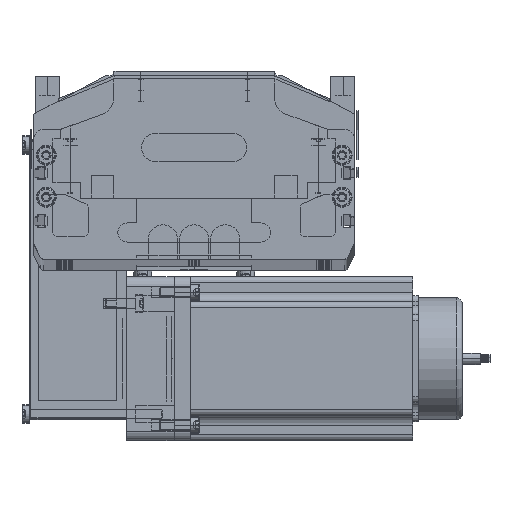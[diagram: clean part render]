
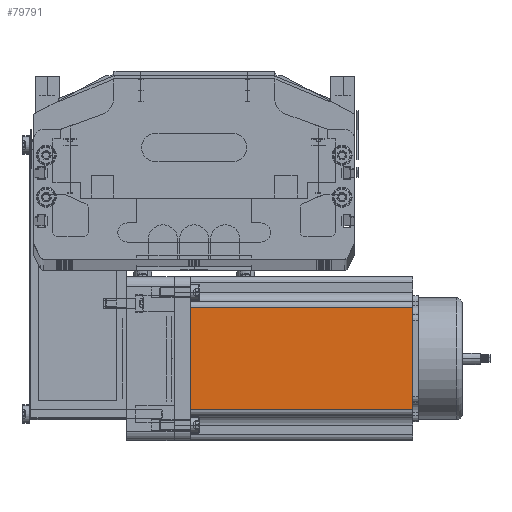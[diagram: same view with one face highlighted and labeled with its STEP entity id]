
A CAD part, top view. The second image highlights one B-rep face of the part: STEP entity #79791.
In plain terms, the highlighted planar face has unit normal (0, 0, 1) as drawn and (0, -1, 0) by its records, which use the part's own axes.
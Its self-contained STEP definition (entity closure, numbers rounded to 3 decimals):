
#14833 = VERTEX_POINT ( 'NONE', #82584 ) ;
#14946 = VERTEX_POINT ( 'NONE', #83104 ) ;
#14979 = EDGE_LOOP ( 'NONE', ( #73003, #72992, #79760, #73011 ) ) ;
#37109 = CARTESIAN_POINT ( 'NONE',  ( 69.74, 0., 116.5 ) ) ;
#37116 = CARTESIAN_POINT ( 'NONE',  ( 16.16, 0., 116.5 ) ) ;
#37303 = DIRECTION ( 'NONE',  ( 0., 0., 1. ) ) ;
#37306 = DIRECTION ( 'NONE',  ( 0., 1., 0. ) ) ;
#37318 = PLANE ( 'NONE',  #37332 ) ;
#37323 = FACE_OUTER_BOUND ( 'NONE', #14979, .T. ) ;
#37332 = AXIS2_PLACEMENT_3D ( 'NONE', #37336, #37306, #37303 ) ;
#37336 = CARTESIAN_POINT ( 'NONE',  ( 0., 0., 116.5 ) ) ;
#72982 = EDGE_CURVE ( 'NONE', #14946, #79752, #87397, .T. ) ;
#72988 = EDGE_CURVE ( 'NONE', #79753, #14833, #87446, .T. ) ;
#72992 = ORIENTED_EDGE ( 'NONE', *, *, #72982, .T. ) ;
#72996 = EDGE_CURVE ( 'NONE', #14833, #14946, #87431, .T. ) ;
#73003 = ORIENTED_EDGE ( 'NONE', *, *, #72996, .T. ) ;
#73010 = EDGE_CURVE ( 'NONE', #79753, #79752, #87419, .T. ) ;
#73011 = ORIENTED_EDGE ( 'NONE', *, *, #72988, .T. ) ;
#79752 = VERTEX_POINT ( 'NONE', #37109 ) ;
#79753 = VERTEX_POINT ( 'NONE', #37116 ) ;
#79760 = ORIENTED_EDGE ( 'NONE', *, *, #73010, .F. ) ;
#79791 = ADVANCED_FACE ( 'NONE', ( #37323 ), #37318, .F. ) ;
#82584 = CARTESIAN_POINT ( 'NONE',  ( 16.16, 0., 0. ) ) ;
#83104 = CARTESIAN_POINT ( 'NONE',  ( 69.74, 0., 0. ) ) ;
#87394 = DIRECTION ( 'NONE',  ( 0., 0., 1. ) ) ;
#87395 = VECTOR ( 'NONE', #87394, 1000. ) ;
#87396 = CARTESIAN_POINT ( 'NONE',  ( 69.74, 0., 116.5 ) ) ;
#87397 = LINE ( 'NONE', #87396, #87395 ) ;
#87418 = CARTESIAN_POINT ( 'NONE',  ( 0., 0., 116.5 ) ) ;
#87419 = LINE ( 'NONE', #87418, #87465 ) ;
#87420 = VECTOR ( 'NONE', #87437, 1000. ) ;
#87431 = LINE ( 'NONE', #87438, #87420 ) ;
#87437 = DIRECTION ( 'NONE',  ( 1., 0., 0. ) ) ;
#87438 = CARTESIAN_POINT ( 'NONE',  ( 0., 0., 0. ) ) ;
#87439 = DIRECTION ( 'NONE',  ( 0., 0., -1. ) ) ;
#87440 = VECTOR ( 'NONE', #87439, 1000. ) ;
#87441 = CARTESIAN_POINT ( 'NONE',  ( 16.16, 0., 116.5 ) ) ;
#87446 = LINE ( 'NONE', #87441, #87440 ) ;
#87464 = DIRECTION ( 'NONE',  ( 1., 0., 0. ) ) ;
#87465 = VECTOR ( 'NONE', #87464, 1000. ) ;
